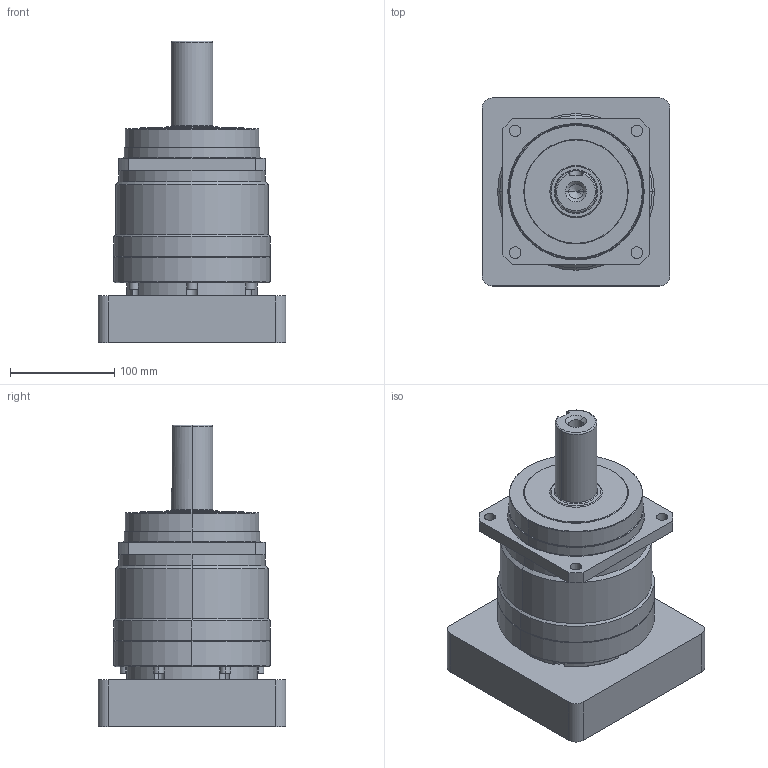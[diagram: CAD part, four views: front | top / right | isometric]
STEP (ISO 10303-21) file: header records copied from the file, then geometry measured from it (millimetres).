
FILE_DESCRIPTION (( 'STEP AP214' ), '1' );
FILE_NAME ('VRS140-L1-S2-P1 35-114.3-200-M12.STEP', '2023-09-01T01:54:57', ( '微软用户' ), ( '微软中国' ), 'SwSTEP 2.0', 'SolidWorks 2018', '' );
FILE_SCHEMA (( 'AUTOMOTIVE_DESIGN' ));
Length unit declared in the file: millimetre
Products named in the file (1): VRS140-L1-S2-P1 35-114.3-200-M12
Bounding box: 180 x 180 x 289 mm (x, y, z)
Volume: 3770838.1 mm3; surface area: 232491.8 mm2
Topology: 1 solids, 1 shells, 203 faces, 474 edges, 298 vertices
Faces by surface type: plane 82, cylinder 77, cone 35, torus 9
Entity records: 5937 total; most frequent: CARTESIAN_POINT 1077, DIRECTION 1071, ORIENTED_EDGE 944, EDGE_CURVE 472, AXIS2_PLACEMENT_3D 410, VERTEX_POINT 298, VECTOR 251, LINE 251
